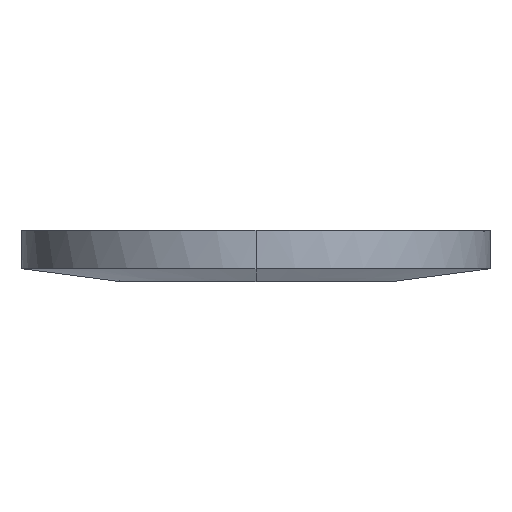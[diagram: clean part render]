
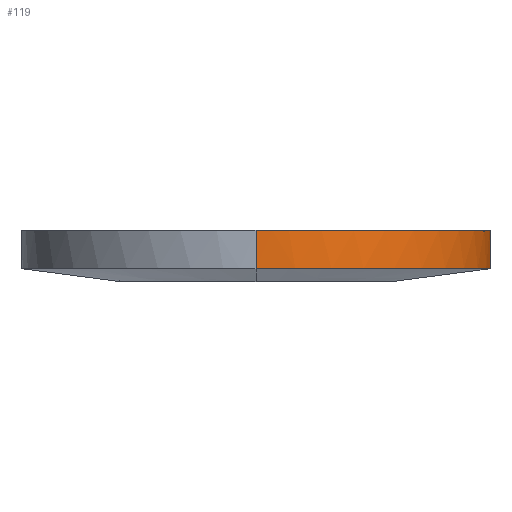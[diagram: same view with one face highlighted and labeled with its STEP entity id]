
A CAD part, front view. The second image highlights one B-rep face of the part: STEP entity #119.
In plain terms, the highlighted free-form (B-spline) face has degree [1, 2] with [2, 9] control points.
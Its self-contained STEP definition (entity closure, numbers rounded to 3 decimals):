
#119=ADVANCED_FACE('',(#127),#399,.T.);
#127=FACE_OUTER_BOUND('',#135,.T.);
#135=EDGE_LOOP('',(#149,#150,#151,#152));
#149=ORIENTED_EDGE('',*,*,#293,.T.);
#150=ORIENTED_EDGE('',*,*,#294,.T.);
#151=ORIENTED_EDGE('',*,*,#295,.T.);
#152=ORIENTED_EDGE('',*,*,#296,.T.);
#177=(
BOUNDED_CURVE()
B_SPLINE_CURVE(2,(#584,#585,#586,#587,#588),.UNSPECIFIED.,.F.,.F.)
B_SPLINE_CURVE_WITH_KNOTS((3,2,3),(1.,2.571,4.142),
 .UNSPECIFIED.)
CURVE()
GEOMETRIC_REPRESENTATION_ITEM()
RATIONAL_B_SPLINE_CURVE((1.,0.707,1.,0.707,1.))
REPRESENTATION_ITEM('')
);
#178=(
BOUNDED_CURVE()
B_SPLINE_CURVE(2,(#595,#596,#597,#598,#599),.UNSPECIFIED.,.F.,.F.)
B_SPLINE_CURVE_WITH_KNOTS((3,2,3),(5.142,6.712,8.283),
 .UNSPECIFIED.)
CURVE()
GEOMETRIC_REPRESENTATION_ITEM()
RATIONAL_B_SPLINE_CURVE((1.,0.707,1.,0.707,1.))
REPRESENTATION_ITEM('')
);
#197=PCURVE('',#399,#229);
#198=PCURVE('',#399,#230);
#199=PCURVE('',#399,#231);
#200=PCURVE('',#399,#232);
#229=DEFINITIONAL_REPRESENTATION('',(#330),#827);
#230=DEFINITIONAL_REPRESENTATION('',(#331),#827);
#231=DEFINITIONAL_REPRESENTATION('',(#333),#827);
#232=DEFINITIONAL_REPRESENTATION('',(#334),#827);
#261=SURFACE_CURVE('',#329,(#197),.PCURVE_S1.);
#262=SURFACE_CURVE('',#177,(#198),.PCURVE_S1.);
#263=SURFACE_CURVE('',#332,(#199),.PCURVE_S1.);
#264=SURFACE_CURVE('',#178,(#200),.PCURVE_S1.);
#293=EDGE_CURVE('',#373,#374,#261,.T.);
#294=EDGE_CURVE('',#374,#375,#262,.T.);
#295=EDGE_CURVE('',#375,#376,#263,.T.);
#296=EDGE_CURVE('',#376,#373,#264,.T.);
#329=B_SPLINE_CURVE_WITH_KNOTS('',1,(#580,#581),.UNSPECIFIED.,.F.,.F.,(2,
2),(0.,1.),.UNSPECIFIED.);
#330=B_SPLINE_CURVE_WITH_KNOTS('',1,(#582,#583),.UNSPECIFIED.,.F.,.F.,(2,
2),(0.,1.),.UNSPECIFIED.);
#331=B_SPLINE_CURVE_WITH_KNOTS('',1,(#589,#590),.UNSPECIFIED.,.F.,.F.,(2,
2),(1.,4.142),.UNSPECIFIED.);
#332=B_SPLINE_CURVE_WITH_KNOTS('',1,(#591,#592),.UNSPECIFIED.,.F.,.F.,(2,
2),(4.142,5.142),.UNSPECIFIED.);
#333=B_SPLINE_CURVE_WITH_KNOTS('',1,(#593,#594),.UNSPECIFIED.,.F.,.F.,(2,
2),(4.142,5.142),.UNSPECIFIED.);
#334=B_SPLINE_CURVE_WITH_KNOTS('',1,(#600,#601),.UNSPECIFIED.,.F.,.F.,(2,
2),(5.142,8.283),.UNSPECIFIED.);
#373=VERTEX_POINT('',#576);
#374=VERTEX_POINT('',#577);
#375=VERTEX_POINT('',#578);
#376=VERTEX_POINT('',#579);
#399=(
BOUNDED_SURFACE()
B_SPLINE_SURFACE(1,2,((#558,#559,#560,#561,#562,#563,#564,#565,#566),(#567,
#568,#569,#570,#571,#572,#573,#574,#575)),.UNSPECIFIED.,.F.,.F.,.F.)
B_SPLINE_SURFACE_WITH_KNOTS((2,2),(3,2,2,2,3),(0.,1.),(0.,1.571,
3.142,4.712,6.283),.UNSPECIFIED.)
GEOMETRIC_REPRESENTATION_ITEM()
RATIONAL_B_SPLINE_SURFACE(((1.,0.707,1.,0.707,1.,
0.707,1.,0.707,1.),(1.,0.707,1.,0.707,
1.,0.707,1.,0.707,1.)))
REPRESENTATION_ITEM('')
SURFACE()
);
#558=CARTESIAN_POINT('',(-0.45,2.75,0.));
#559=CARTESIAN_POINT('',(-0.45,2.75,-2.75));
#560=CARTESIAN_POINT('',(-0.45,0.,-2.75));
#561=CARTESIAN_POINT('',(-0.45,-2.75,-2.75));
#562=CARTESIAN_POINT('',(-0.45,-2.75,0.));
#563=CARTESIAN_POINT('',(-0.45,-2.75,2.75));
#564=CARTESIAN_POINT('',(-0.45,0.,2.75));
#565=CARTESIAN_POINT('',(-0.45,2.75,2.75));
#566=CARTESIAN_POINT('',(-0.45,2.75,0.));
#567=CARTESIAN_POINT('',(0.,2.75,0.));
#568=CARTESIAN_POINT('',(0.,2.75,-2.75));
#569=CARTESIAN_POINT('',(0.,0.,-2.75));
#570=CARTESIAN_POINT('',(0.,-2.75,-2.75));
#571=CARTESIAN_POINT('',(0.,-2.75,0.));
#572=CARTESIAN_POINT('',(0.,-2.75,2.75));
#573=CARTESIAN_POINT('',(0.,0.,2.75));
#574=CARTESIAN_POINT('',(0.,2.75,2.75));
#575=CARTESIAN_POINT('',(0.,2.75,0.));
#576=CARTESIAN_POINT('',(-0.45,2.75,0.));
#577=CARTESIAN_POINT('',(0.,2.75,0.));
#578=CARTESIAN_POINT('',(0.,-2.75,0.));
#579=CARTESIAN_POINT('',(-0.45,-2.75,0.));
#580=CARTESIAN_POINT('',(-0.45,2.75,0.));
#581=CARTESIAN_POINT('',(0.,2.75,0.));
#582=CARTESIAN_POINT('',(0.,0.));
#583=CARTESIAN_POINT('',(1.,0.));
#584=CARTESIAN_POINT('',(0.,2.75,0.));
#585=CARTESIAN_POINT('',(0.,2.75,-2.75));
#586=CARTESIAN_POINT('',(0.,0.,-2.75));
#587=CARTESIAN_POINT('',(0.,-2.75,-2.75));
#588=CARTESIAN_POINT('',(0.,-2.75,0.));
#589=CARTESIAN_POINT('',(1.,0.));
#590=CARTESIAN_POINT('',(1.,3.142));
#591=CARTESIAN_POINT('',(0.,-2.75,0.));
#592=CARTESIAN_POINT('',(-0.45,-2.75,0.));
#593=CARTESIAN_POINT('',(1.,3.142));
#594=CARTESIAN_POINT('',(0.,3.142));
#595=CARTESIAN_POINT('',(-0.45,-2.75,0.));
#596=CARTESIAN_POINT('',(-0.45,-2.75,-2.75));
#597=CARTESIAN_POINT('',(-0.45,0.,-2.75));
#598=CARTESIAN_POINT('',(-0.45,2.75,-2.75));
#599=CARTESIAN_POINT('',(-0.45,2.75,0.));
#600=CARTESIAN_POINT('',(0.,3.142));
#601=CARTESIAN_POINT('',(0.,0.));
#827=(
GEOMETRIC_REPRESENTATION_CONTEXT(2)
PARAMETRIC_REPRESENTATION_CONTEXT()
REPRESENTATION_CONTEXT('pspace','')
);
